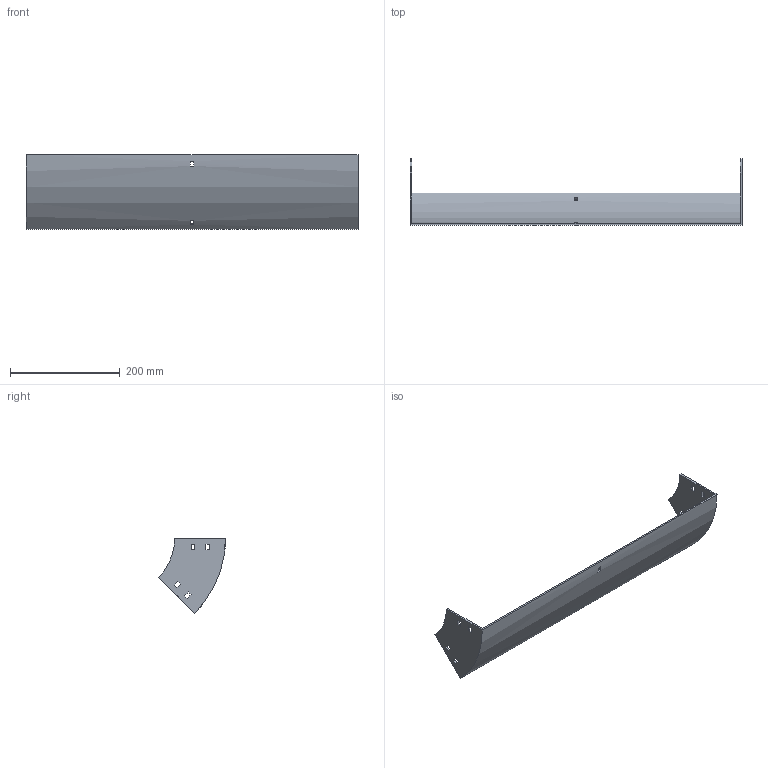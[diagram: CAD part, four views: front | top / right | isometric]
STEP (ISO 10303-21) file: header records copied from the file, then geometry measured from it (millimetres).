
FILE_DESCRIPTION (( 'STEP AP214' ), '1' );
FILE_NAME ('31B1I600.step', '2025-02-21T09:48:25', ( '' ), ( '' ), 'SwSTEP 2.0', 'SolidWorks 2023', '' );
FILE_SCHEMA (( 'AUTOMOTIVE_DESIGN' ));
Length unit declared in the file: millimetre
Products named in the file (1): 31B1I600
Bounding box: 604 x 121.79 x 136.12 mm (x, y, z)
Volume: 385041.5 mm3; surface area: 227227 mm2
Topology: 1 solids, 1 shells, 50 faces, 144 edges, 96 vertices
Faces by surface type: plane 46, cylinder 4
Entity records: 1687 total; most frequent: CARTESIAN_POINT 291, ORIENTED_EDGE 288, DIRECTION 262, EDGE_CURVE 144, VECTOR 128, LINE 128, VERTEX_POINT 96, EDGE_LOOP 70
